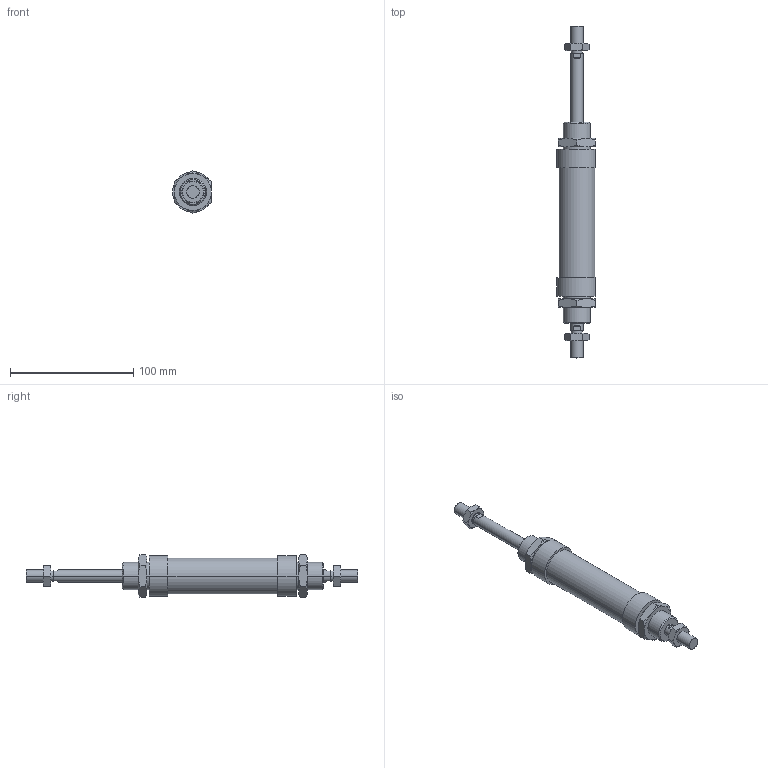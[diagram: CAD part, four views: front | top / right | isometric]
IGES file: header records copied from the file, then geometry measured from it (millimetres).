
Global section: file name: No Iges File Name specified; native system: AutoDesk Inventor R6.0; preprocessor: AutoDesk Inventor Iges Exporter R6.0; author: No Author specified; organization: No Organization specified; date: 20030403.072439; units: millimetre
Bounding box: 31.5 x 269 x 34.64 mm (x, y, z)
Volume: 115967.2 mm3; surface area: 35932 mm2
Topology: 6 solids, 6 shells, 184 faces, 396 edges, 232 vertices
Faces by surface type: cone 68, plane 60, bspline 30, cylinder 20, revolution 6
